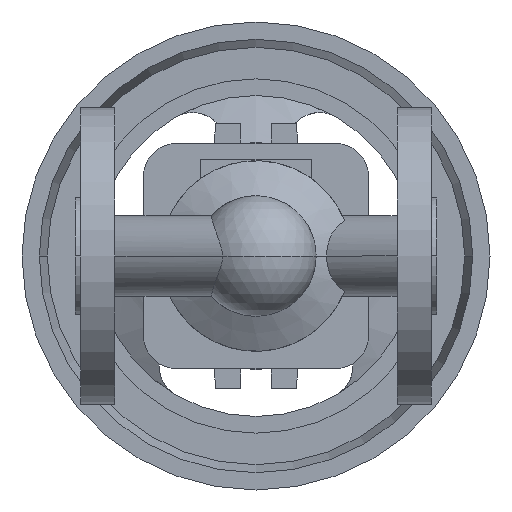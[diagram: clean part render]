
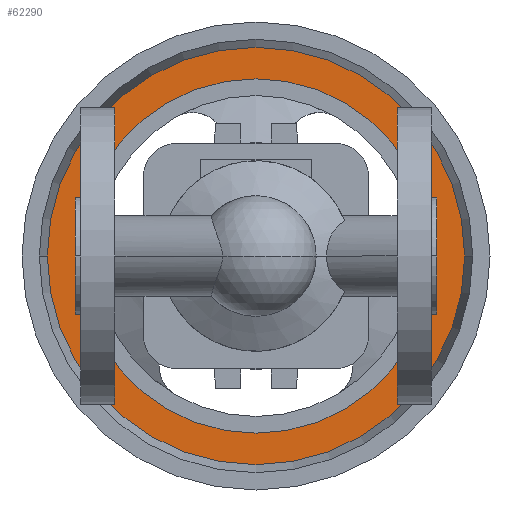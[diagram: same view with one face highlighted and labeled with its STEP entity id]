
A CAD part, front view. The second image highlights one B-rep face of the part: STEP entity #62290.
In plain terms, the highlighted planar face has unit normal (0, -1, 0).
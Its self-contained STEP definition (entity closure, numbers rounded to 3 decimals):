
#61740=CARTESIAN_POINT('',(-8.412,237.,0.));
#61750=VERTEX_POINT('',#61740);
#61780=CARTESIAN_POINT('',(54.,237.,0.));
#61790=DIRECTION('',(0.,1.,0.));
#61800=DIRECTION('',(-1.,0.,0.));
#61810=AXIS2_PLACEMENT_3D('',#61780,#61790,#61800);
#61820=CIRCLE('',#61810,62.412);
#61830=CARTESIAN_POINT('',(116.412,237.,0.))
;
#61840=VERTEX_POINT('',#61830);
#61850=EDGE_CURVE('',#61840,#61750,#61820,.T.);
#62040=CARTESIAN_POINT('',(-3.706,237.,0.))
;
#62050=DIRECTION('',(0.,-1.,0.));
#62060=DIRECTION('',(1.,0.,0.));
#62070=AXIS2_PLACEMENT_3D('',#62040,#62050,#62060);
#62080=PLANE('',#62070);
#62090=EDGE_CURVE('',#61750,#61840,#61820,.T.);
#62100=ORIENTED_EDGE('',*,*,#62090,.F.);
#62110=ORIENTED_EDGE('',*,*,#61850,.F.);
#62120=EDGE_LOOP('',(#62110,#62100));
#62130=FACE_OUTER_BOUND('',#62120,.T.);
#62140=CARTESIAN_POINT('',(54.,237.,0.));
#62150=DIRECTION('',(0.,1.,0.));
#62160=DIRECTION('',(-1.,0.,0.));
#62170=AXIS2_PLACEMENT_3D('',#62140,#62150,#62160);
#62180=CIRCLE('',#62170,53.);
#62190=CARTESIAN_POINT('',(107.,237.,0.));
#62200=VERTEX_POINT('',#62190);
#62210=CARTESIAN_POINT('',(1.,237.,0.));
#62220=VERTEX_POINT('',#62210);
#62230=EDGE_CURVE('',#62200,#62220,#62180,.T.);
#62240=ORIENTED_EDGE('',*,*,#62230,.T.);
#62250=EDGE_CURVE('',#62220,#62200,#62180,.T.);
#62260=ORIENTED_EDGE('',*,*,#62250,.T.);
#62270=EDGE_LOOP('',(#62260,#62240));
#62280=FACE_BOUND('',#62270,.T.);
#62290=ADVANCED_FACE('',(#62130,#62280),#62080,.T.);
